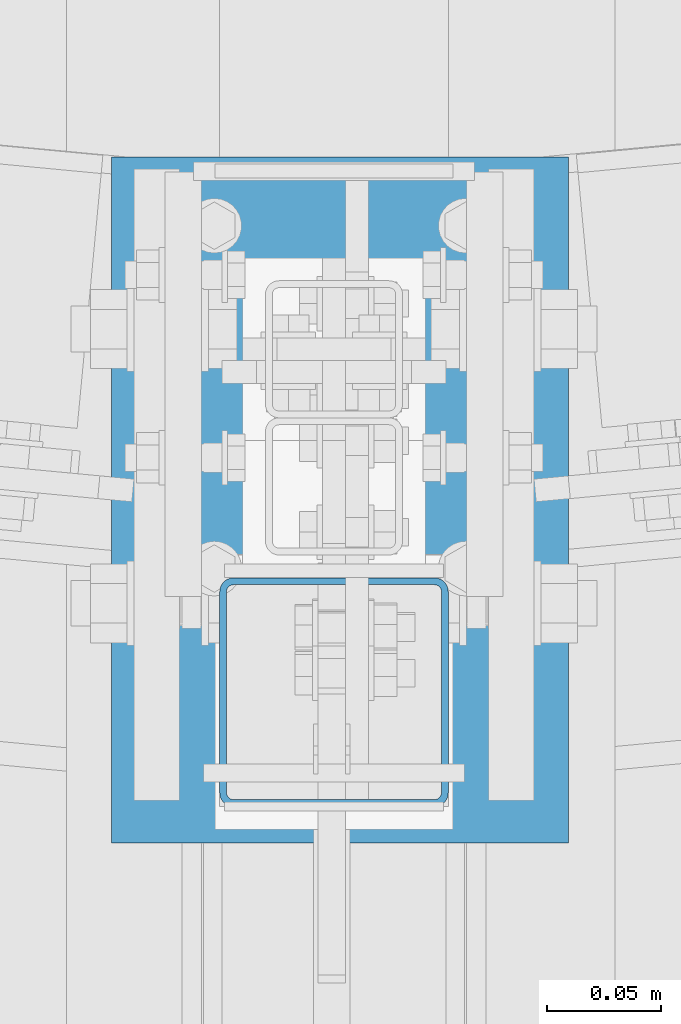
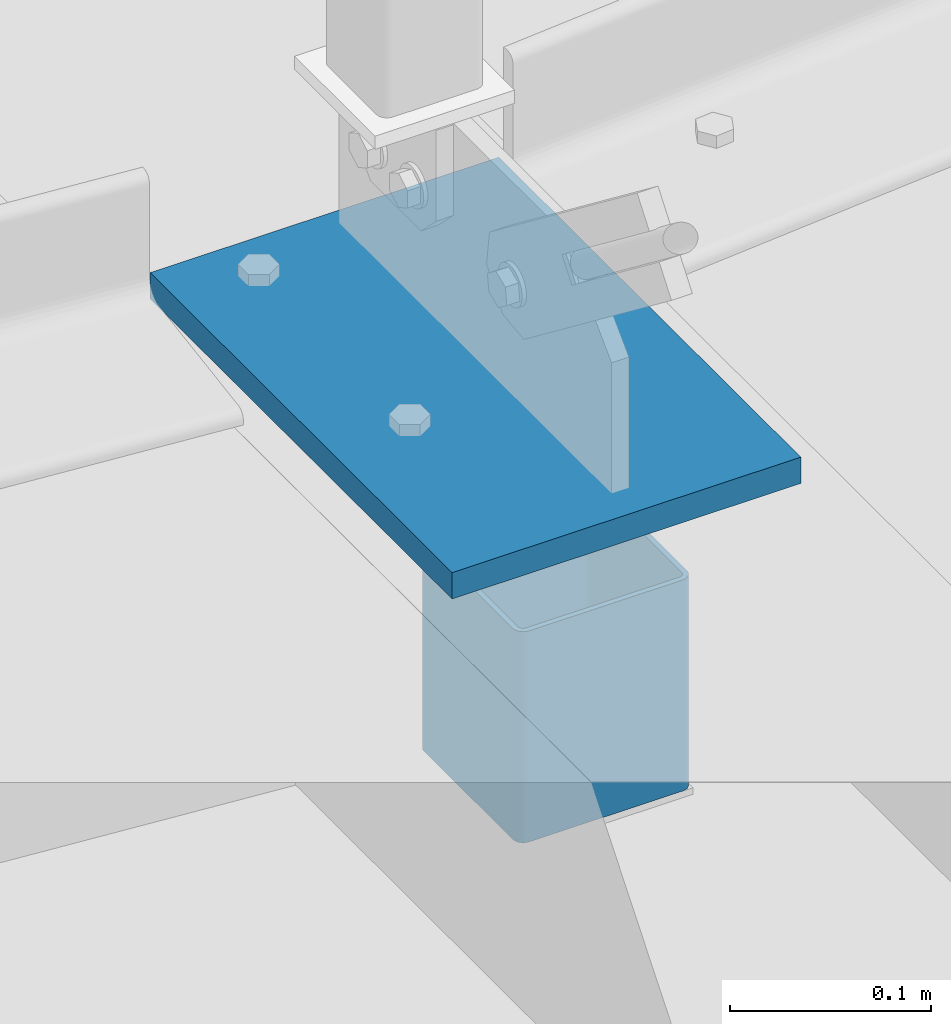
# One storey, part 70 of 271: 2 beams, 2 elements without a shape of their own.
"""IFC2X3 building model written with IfcOpenShell, lengths in millimetres."""

import ifcopenshell
import ifcopenshell.guid

model = None  # the IFC model being written
_history = None  # IfcOwnerHistory: only IFC2X3 demands one
_inside = {}  # id of a spatial element -> (the spatial element, [elements in it])
_under = {}  # id of a project, library or spatial element -> (it, [spatial elements below it])
_declared = {}  # id of a project -> (the project, [libraries it declares])
_typed = {}  # id of a type object -> (the type object, [elements of that type])
_made_of = {}  # id of a material, layer set ... -> (it, [elements and type objects made of it])


def new_model(schema):
    """Start an empty IFC model of exactly this schema.

    Asked for "IFC4X3", IfcOpenShell would pick the latest addendum, in which some entities
    have other attributes; the version numbers below select the first issue.
    IFC2X3 requires an IfcOwnerHistory on every rooted entity: one is made here for all.
    """
    global model, _history
    if schema == "IFC4X3":
        model = ifcopenshell.file(schema_version=(4, 3, 0, 0))
    else:
        model = ifcopenshell.file(schema=schema)
    _inside.clear()
    _under.clear()
    _declared.clear()
    _typed.clear()
    _made_of.clear()
    _history = None
    if model.schema == "IFC2X3":
        org = make("IfcOrganization", Name="unknown")
        user = make(
            "IfcPersonAndOrganization",
            ThePerson=make("IfcPerson", FamilyName="unknown"),
            TheOrganization=org,
        )
        app = make(
            "IfcApplication",
            ApplicationDeveloper=org,
            Version="unknown",
            ApplicationFullName="unknown",
            ApplicationIdentifier="unknown",
        )
        _history = make(
            "IfcOwnerHistory",
            OwningUser=user,
            OwningApplication=app,
            ChangeAction="ADDED",
            CreationDate=0,
        )
    return model


def make(cls, **values):
    """One entity of the class cls with the attributes given. An attribute that is None is left unset."""
    return model.create_entity(
        cls, **{name: value for name, value in values.items() if value is not None}
    )


def rooted(cls, **values):
    """An entity with a GlobalId (a new one), such as an element, a storey or a relation."""
    return make(cls, GlobalId=ifcopenshell.guid.new(), OwnerHistory=_history, **values)


def si_unit(unit_type, name, prefix=None):
    """IfcSIUnit, for example si_unit("LENGTHUNIT", "METRE", prefix="MILLI")."""
    return make("IfcSIUnit", UnitType=unit_type, Prefix=prefix, Name=name)


def assignment(units):
    """IfcUnitAssignment: the units of a project."""
    return None if units is None else make("IfcUnitAssignment", Units=units)


def point(xyz):
    """IfcCartesianPoint."""
    return None if xyz is None else make("IfcCartesianPoint", Coordinates=xyz)


def direction(xyz):
    """IfcDirection."""
    return None if xyz is None else make("IfcDirection", DirectionRatios=xyz)


def frame(location, z_axis=None, x_axis=None):
    """IfcAxis2Placement3D, a coordinate frame: its origin and axes. An axis left out is left unset."""
    return make(
        "IfcAxis2Placement3D",
        Location=point(location),
        Axis=direction(z_axis),
        RefDirection=direction(x_axis),
    )


def frame_2d(location, x_axis=None):
    """IfcAxis2Placement2D, a coordinate frame in the plane: its origin and x axis."""
    return make(
        "IfcAxis2Placement2D", Location=point(location), RefDirection=direction(x_axis)
    )


def origin_with_axes():
    """The frame at (0, 0, 0) with the z axis (0, 0, 1) and the x axis (1, 0, 0) written out."""
    return frame((0.0, 0.0, 0.0), z_axis=(0.0, 0.0, 1.0), x_axis=(1.0, 0.0, 0.0))


def origin_2d_with_axis():
    """The frame at (0, 0) in the plane with the x axis (1, 0) written out."""
    return frame_2d((0.0, 0.0), x_axis=(1.0, 0.0))


def place(relative_to, where):
    """IfcLocalPlacement: puts the frame where relative to a parent placement (None: the world)."""
    return make(
        "IfcLocalPlacement", PlacementRelTo=relative_to, RelativePlacement=where
    )


def context(
    kind, dimensions, precision=None, world=None, true_north=None, identifier=None
):
    """IfcGeometricRepresentationContext, for example the 3D "Model" context."""
    return make(
        "IfcGeometricRepresentationContext",
        ContextIdentifier=identifier,
        ContextType=kind,
        CoordinateSpaceDimension=dimensions,
        Precision=precision,
        WorldCoordinateSystem=world,
        TrueNorth=true_north,
    )


def subcontext(parent, identifier, kind, view, scale=None):
    """IfcGeometricRepresentationSubContext, for example "Body" below "Model"."""
    return make(
        "IfcGeometricRepresentationSubContext",
        ContextIdentifier=identifier,
        ContextType=kind,
        ParentContext=parent,
        TargetScale=scale,
        TargetView=view,
    )


def project(units=None, contexts=None):
    """IfcProject with its units and contexts."""
    return rooted(
        "IfcProject",
        Name="project",
        RepresentationContexts=contexts,
        UnitsInContext=assignment(units),
    )


def spatial(cls, under=None, at=None, **own):
    """A site, building, storey or space (cls), placed at a placement, below another one or the project."""
    s = rooted(cls, ObjectPlacement=at, **own)
    if under is not None:
        _under.setdefault(under.id(), (under, []))[1].append(s)
    return s


def profile(cls, at=None, kind="AREA", **sizes):
    """A parametric profile (cls). Its sizes go by their IFC names, for example OverallWidth=200.0."""
    return make(cls, ProfileType=kind, Position=at, **sizes)


def rectangle(**sizes):
    """IfcRectangleProfileDef."""
    return profile("IfcRectangleProfileDef", **sizes)


def hollow_rectangle(**sizes):
    """IfcRectangleHollowProfileDef."""
    return profile("IfcRectangleHollowProfileDef", **sizes)


def extrude(swept, where, along, depth):
    """IfcExtrudedAreaSolid: the profile swept, set in the frame where, extruded along a direction by depth."""
    return make(
        "IfcExtrudedAreaSolid",
        SweptArea=swept,
        Position=where,
        ExtrudedDirection=direction(along),
        Depth=depth,
    )


def clip(a, b, op="DIFFERENCE"):
    """IfcBooleanClippingResult: the solid a cut by the half space b."""
    return make(
        "IfcBooleanClippingResult", Operator=op, FirstOperand=a, SecondOperand=b
    )


def halfspace(plane, agree):
    """IfcHalfSpaceSolid: all space on one side of the plane z = 0 of the frame plane."""
    return make(
        "IfcHalfSpaceSolid",
        BaseSurface=make("IfcPlane", Position=plane),
        AgreementFlag=agree,
    )


def shape(context_of_items, identifier, shape_type, items):
    """IfcShapeRepresentation: the items that make up one representation, for example the "Body"."""
    return make(
        "IfcShapeRepresentation",
        ContextOfItems=context_of_items,
        RepresentationIdentifier=identifier,
        RepresentationType=shape_type,
        Items=items,
    )


def material(Name=None, Category=None):
    """IfcMaterial."""
    return make("IfcMaterial", Name=Name, Category=Category)


def made_of(thing, what):
    """Note that an element or type object is made of a material, layer set ...; save() writes the relation."""
    if what is not None:
        _made_of.setdefault(what.id(), (what, []))[1].append(thing)
    return thing


def type_object(cls, material=None, **own):
    """A type object (cls), such as IfcWallType, which elements share."""
    return made_of(rooted(cls, **own), material)


def element(
    cls,
    number,
    at=None,
    inside=None,
    cuts=None,
    type_object=None,
    material=None,
    context=None,
    identifier="Body",
    shape_type=None,
    held_by="IfcProductDefinitionShape",
    body=None,
    shapes=None,
    **own,
):
    """One element of the class cls, such as IfcWall. Its Tag is "e" and its number.

    at: its placement. inside: the storey or other place that contains it. cuts: it is an
    opening in that element (IfcRelVoidsElement). A single representation is given by context,
    identifier, shape_type and body (its items); several are given by shapes. held_by: the class
    of the entity that holds the representations. save() writes the other relations.
    """
    e = rooted(cls, Tag="e%d" % number, ObjectPlacement=at, **own)
    if body is not None:
        shapes = [shape(context, identifier, shape_type, body)]
    if shapes is not None:
        e.Representation = make(held_by, Representations=shapes)
    if inside is not None:
        _inside.setdefault(inside.id(), (inside, []))[1].append(e)
    if cuts is not None:
        rooted(
            "IfcRelVoidsElement", RelatingBuildingElement=cuts, RelatedOpeningElement=e
        )
    if type_object is not None:
        _typed.setdefault(type_object.id(), (type_object, []))[1].append(e)
    return made_of(e, material)


def aggregate(whole, parts):
    """IfcRelAggregates: a whole, such as a stair, and the parts it consists of."""
    return rooted("IfcRelAggregates", RelatingObject=whole, RelatedObjects=parts)


def save(model, path):
    """Write the relations noted so far, then the file.

    IfcRelAggregates (storeys below a building ...), IfcRelContainedInSpatialStructure (elements
    in a storey), IfcRelDefinesByType, IfcRelAssociatesMaterial and IfcRelDeclares: one each for
    every whole, place, type object, material and project.
    """
    for whole, parts in _under.values():
        aggregate(whole, parts)
    for where, things in _inside.values():
        rooted(
            "IfcRelContainedInSpatialStructure",
            RelatedElements=things,
            RelatingStructure=where,
        )
    for kind, things in _typed.values():
        rooted("IfcRelDefinesByType", RelatedObjects=things, RelatingType=kind)
    for what, things in _made_of.values():
        rooted("IfcRelAssociatesMaterial", RelatedObjects=things, RelatingMaterial=what)
    for by, libraries in _declared.values():
        rooted("IfcRelDeclares", RelatingContext=by, RelatedDefinitions=libraries)
    model.write(path)


model = new_model("IFC2X3")

# Units and contexts
model_context = context("Model", 3, precision=1e-05, world=origin_with_axes())
body_context = subcontext(model_context, "Body", "Model", "MODEL_VIEW")
ifc_project = project(units=[si_unit("LENGTHUNIT", "METRE", prefix="MILLI"), si_unit("AREAUNIT", "SQUARE_METRE"), si_unit("VOLUMEUNIT", "CUBIC_METRE"), si_unit("MASSUNIT", "GRAM", prefix="KILO"), si_unit("TIMEUNIT", "SECOND"), si_unit("PLANEANGLEUNIT", "RADIAN"), si_unit("SOLIDANGLEUNIT", "STERADIAN"), si_unit("THERMODYNAMICTEMPERATUREUNIT", "DEGREE_CELSIUS"), si_unit("LUMINOUSINTENSITYUNIT", "LUMEN")], contexts=[model_context])

# Site, building, storey
site_placement = place(None, origin_with_axes())
site = spatial("IfcSite", under=ifc_project, at=site_placement, Name="Undefined", CompositionType="ELEMENT")
building_placement = place(site_placement, origin_with_axes())
building = spatial("IfcBuilding", under=site, at=building_placement, Name="Undefined", CompositionType="ELEMENT")
storey_placement = place(building_placement, origin_with_axes())
storey = spatial("IfcBuildingStorey", under=building, at=storey_placement, Name="Undefined", CompositionType="ELEMENT", Elevation=0.0)

# Assembly, beam
assembly_1_placement = place(storey_placement, origin_with_axes())
assembly_1 = element("IfcElementAssembly", 1, at=assembly_1_placement, inside=storey, Name="BELKA", AssemblyPlace="NOTDEFINED", PredefinedType="RIGID_FRAME")
ifc_material = material(Name="STEEL/S355JR")
beam_type_1 = type_object("IfcBeamType", Name="PL300*16", PredefinedType="NOTDEFINED")
beam_1_placement = place(assembly_1_placement, frame((6251.0, 3699.0, -8.0), z_axis=(0.0, -1.0, 0.0), x_axis=(1.0, 0.0, 0.0)))
beam_1 = element("IfcBeam", 2, at=beam_1_placement, type_object=beam_type_1, material=ifc_material, Name="BELKA", ObjectType="PL300*16", context=body_context, shape_type="SweptSolid", body=[
    extrude(rectangle(XDim=16.0, YDim=300.0, at=origin_2d_with_axis()), frame((200.0, 0.0, 0.0), z_axis=(-1.0, 0.0, 1.38777878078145e-17), x_axis=(0.0, -1.0, 0.0)), (0.0, 0.0, 1.0), 200.0),
])
aggregate(assembly_1, [beam_1])

assembly_2_placement = place(storey_placement, origin_with_axes())
assembly_2 = element("IfcElementAssembly", 3, at=assembly_2_placement, inside=storey, AssemblyPlace="NOTDEFINED", PredefinedType="RIGID_FRAME")
beam_type_2 = type_object("IfcBeamType", Name="SHS100*3", PredefinedType="NOTDEFINED")
beam_2_placement = place(assembly_2_placement, frame((6348.37568736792, 3614.92439872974, -195.650000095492), z_axis=(0.0, 1.0, 0.0), x_axis=(0.0, 0.0, 1.0)))
beam_2 = element("IfcBeam", 4, at=beam_2_placement, type_object=beam_type_2, material=ifc_material, Name="TĘŻNIK", ObjectType="SHS100*3", context=body_context, shape_type="Clipping", body=[
    clip(extrude(hollow_rectangle(XDim=100.0, YDim=100.0, WallThickness=3.0, InnerFilletRadius=3.0, OuterFilletRadius=6.0, at=origin_2d_with_axis()), frame((132.0, 0.0, 0.0), z_axis=(-1.0, 0.0, 1.38777878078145e-17), x_axis=(0.0, -1.0, 0.0)), (0.0, 0.0, 1.0), 132.0), halfspace(frame((4.0, 0.0, -50.0), z_axis=(1.0, 0.0, 0.0), x_axis=(0.0, -1.0, 0.0)), True)),
])
aggregate(assembly_2, [beam_2])

save(model, "model.ifc")
